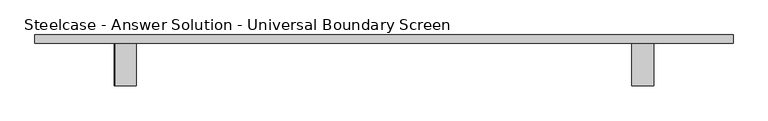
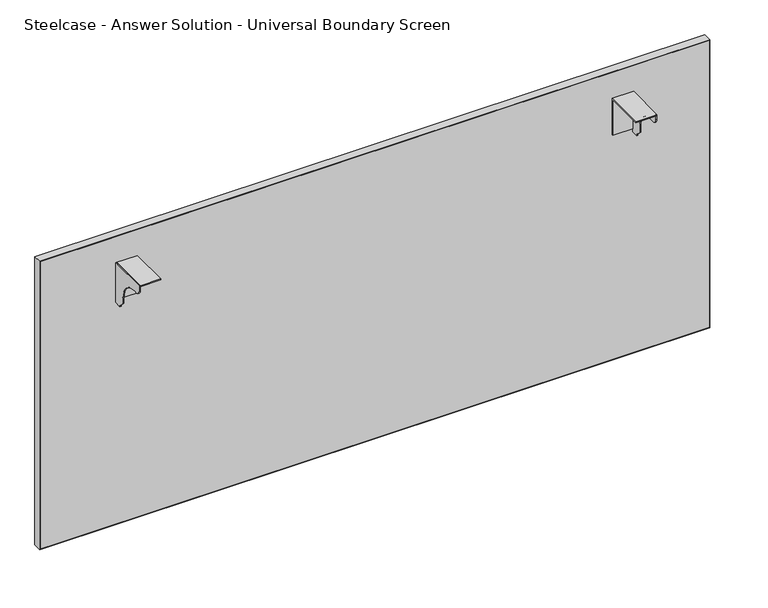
"""IFC4 building model written with IfcOpenShell, lengths in millimetres: furniture geometry, Steelcase - Answer Solution - Universal Boundary Screen : 30H x 66W."""

from ifc_helpers import new_model, si_unit, point, frame, frame_2d, origin, place, context, project, spatial, polyline, circle_curve, trimmed, segment, composite_curve, outline, extrude, source, transform, mapped, element, save


def steelcase_answer_solution_universal_boundary_screen_f987e0dd(model_context):
    return source(origin(), model_context, "Body", "SweptSolid", [
        extrude(outline(polyline([(-103.1670434, 689.3558876), (-103.1670434, 692.1499758), (-1.5668826, 692.1499758), (-1.5668826, 595.5029317), (-4.1079736, 595.5029317), (-4.1079736, 689.3558876), (-103.1670434, 689.3558876)])), frame((1124.4336711, 0.0, 0.0), z_axis=(1.0, 0.0, 0.0), x_axis=(0.0, 1.0, 0.0)), (0.0, 0.0, 1.0), 53.3444116),
        extrude(outline(composite_curve([segment(polyline([(-103.1670434, 679.2814802), (-103.1670434, 692.1499758), (-1.5668826, 692.1499758), (-1.5668826, 586.9634093), (-19.8232934, 586.9634093), (-19.8232934, 589.7574248), (-32.0458032, 601.9799346), (-32.0458032, 615.7814802)]), True, "CONTINUOUS"), segment(trimmed(circle_curve(frame_2d((-82.8458032, 615.7814802)), 50.8), [point((-32.0458032, 615.7814802))], [point((-82.8458032, 666.5814802))], True, "CARTESIAN"), True, "CONTINUOUS"), segment(polyline([(-82.8458032, 666.5814802), (-90.4670434, 666.5814802)]), True, "CONTINUOUS"), segment(trimmed(circle_curve(frame_2d((-90.4670434, 679.2814802)), 12.7), [point((-90.4670434, 666.5814802))], [point((-103.1670434, 679.2814802))], False, "CARTESIAN"), True, "CONTINUOUS")], self_intersect=False)), frame((1175.2328959, 0.0, 0.0), z_axis=(1.0, 0.0, 0.0), x_axis=(0.0, 1.0, 0.0)), (0.0, 0.0, 1.0), 2.5451868),
        extrude(outline(polyline([(-103.1670434, 689.3558876), (-103.1670434, 692.1499758), (-1.5668826, 692.1499758), (-1.5668826, 595.5029317), (-4.1079736, 595.5029317), (-4.1079736, 689.3558876), (-103.1670434, 689.3558876)])), frame((-115.0767306, 0.0, 0.0), z_axis=(1.0, 0.0, 0.0), x_axis=(0.0, 1.0, 0.0)), (0.0, 0.0, 1.0), 50.7992249),
        extrude(outline(composite_curve([segment(polyline([(-103.1670434, 679.2814802), (-103.1670434, 692.1499758), (-1.5668826, 692.1499758), (-1.5668826, 586.9634093), (-19.8232934, 586.9634093), (-19.8232934, 589.7574248), (-32.0458032, 601.9799346), (-32.0458032, 615.7814802)]), True, "CONTINUOUS"), segment(trimmed(circle_curve(frame_2d((-82.8458032, 615.7814802)), 50.8), [point((-32.0458032, 615.7814802))], [point((-82.8458032, 666.5814802))], True, "CARTESIAN"), True, "CONTINUOUS"), segment(polyline([(-82.8458032, 666.5814802), (-90.4670434, 666.5814802)]), True, "CONTINUOUS"), segment(trimmed(circle_curve(frame_2d((-90.4670434, 679.2814802)), 12.7), [point((-90.4670434, 666.5814802))], [point((-103.1670434, 679.2814802))], False, "CARTESIAN"), True, "CONTINUOUS")], self_intersect=False)), frame((-117.6219173, 0.0, 0.0), z_axis=(1.0, 0.0, 0.0), x_axis=(0.0, 1.0, 0.0)), (0.0, 0.0, 1.0), 2.5451868),
        extrude(outline(polyline([(-307.1293422, 18.9055112), (1367.2855076, 18.9055112), (1367.2855076, -1.5668826), (-307.1293422, -1.5668826), (-307.1293422, 18.9055112)])), frame((0.0, 0.0, 1.016), z_axis=(0.0, 0.0, 1.0), x_axis=(1.0, 0.0, 0.0)), (0.0, 0.0, 1.0), 759.9914249),
        extrude(outline(polyline([(762.0, 1368.2780827), (762.0, -308.1219173), (0.0, -308.1219173), (0.0, 1368.2780827), (762.0, 1368.2780827)]), holes=[polyline([(761.0074249, 1367.2855076), (1.016, 1367.2855076), (1.016, -307.1293422), (761.0074249, -307.1293422), (761.0074249, 1367.2855076)])]), frame((0.0, -1.5668826, 0.0), z_axis=(0.0, 1.0, 0.0), x_axis=(0.0, 0.0, 1.0)), (0.0, 0.0, 1.0), 20.4723938),
    ])


if __name__ == "__main__":
    model = new_model("IFC4")
    model_context = context("Model", 3, world=origin())
    ifc_project = project(units=[si_unit("LENGTHUNIT", "METRE", prefix="MILLI")], contexts=[model_context])
    site = spatial("IfcSite", under=ifc_project)
    building = spatial("IfcBuilding", under=site)
    placement = place(None, origin())
    steelcase_answer_solution_universal_boundary_screen_shape = steelcase_answer_solution_universal_boundary_screen_f987e0dd(model_context)
    element("IfcFurniture", 1, ObjectType="Steelcase - Answer Solution - Universal Boundary Screen : 30H x 66W", at=placement, inside=building, context=model_context, shape_type="MappedRepresentation", body=[
        mapped(steelcase_answer_solution_universal_boundary_screen_shape, transform((0.0, 0.0, 0.0), x_axis=(1.0, 0.0, 0.0), y_axis=(0.0, 1.0, 0.0), z_axis=(0.0, 0.0, 1.0))),
    ])
    save(model, "model.ifc")
